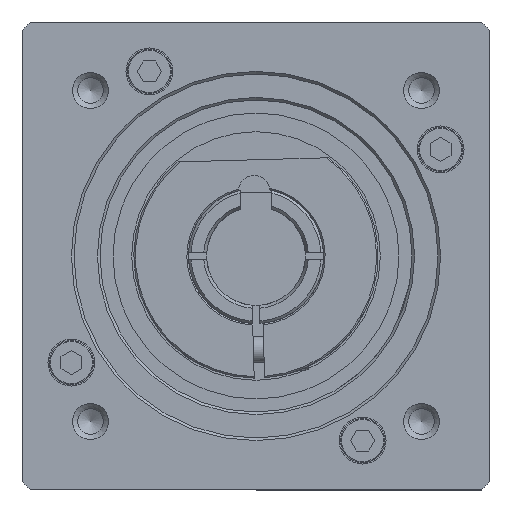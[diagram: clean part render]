
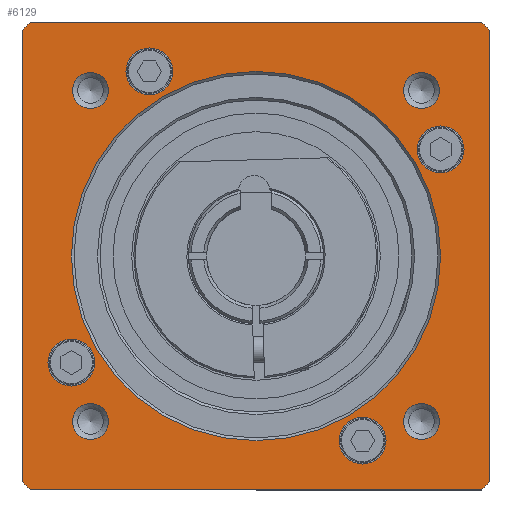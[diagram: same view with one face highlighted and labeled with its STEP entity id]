
A CAD part, front view. The second image highlights one B-rep face of the part: STEP entity #6129.
In plain terms, the highlighted planar face has unit normal (0, -1, 0).
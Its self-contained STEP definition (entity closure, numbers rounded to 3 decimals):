
#5951=CARTESIAN_POINT('',(-31.82,-25.,35.278));
#5952=VERTEX_POINT('',#5951);
#5953=CARTESIAN_POINT('',(-31.82,-25.,31.82));
#5954=DIRECTION('',(0.0,-1.0,0.0));
#5955=DIRECTION('',(0.0,0.0,-1.0));
#5956=AXIS2_PLACEMENT_3D('',#5953,#5954,#5955);
#5957=CIRCLE('',#5956,3.459);
#5958=EDGE_CURVE('',#5952,#5952,#5957,.T.);
#5963=CARTESIAN_POINT('',(48.75,-25.,0.));
#5964=DIRECTION('',(0.0,-1.0,0.0));
#5965=DIRECTION('',(0.0,0.0,-1.0));
#5966=AXIS2_PLACEMENT_3D('',#5963,#5964,#5965);
#5967=PLANE('',#5966);
#5968=CARTESIAN_POINT('',(-43.373,-25.,-45.));
#5969=VERTEX_POINT('',#5968);
#5970=CARTESIAN_POINT('',(43.373,-25.,-45.));
#5971=VERTEX_POINT('',#5970);
#5972=CARTESIAN_POINT('',(-43.373,-25.,-45.));
#5973=DIRECTION('',(1.0,0.0,0.0));
#5974=VECTOR('',#5973,86.747);
#5975=LINE('',#5972,#5974);
#5976=EDGE_CURVE('',#5969,#5971,#5975,.T.);
#5977=ORIENTED_EDGE('',*,*,#5976,.T.);
#5978=CARTESIAN_POINT('',(45.,-25.,-43.373));
#5979=VERTEX_POINT('',#5978);
#5980=CARTESIAN_POINT('',(0.,-25.,0.));
#5981=DIRECTION('',(0.0,-1.0,0.0));
#5982=DIRECTION('',(1.0,0.0,0.0));
#5983=AXIS2_PLACEMENT_3D('',#5980,#5981,#5982);
#5984=CIRCLE('',#5983,62.5);
#5985=EDGE_CURVE('',#5971,#5979,#5984,.T.);
#5986=ORIENTED_EDGE('',*,*,#5985,.T.);
#5987=CARTESIAN_POINT('',(45.,-25.,43.373));
#5988=VERTEX_POINT('',#5987);
#5989=CARTESIAN_POINT('',(45.,-25.,-43.373));
#5990=DIRECTION('',(0.0,0.0,1.0));
#5991=VECTOR('',#5990,86.747);
#5992=LINE('',#5989,#5991);
#5993=EDGE_CURVE('',#5979,#5988,#5992,.T.);
#5994=ORIENTED_EDGE('',*,*,#5993,.T.);
#5995=CARTESIAN_POINT('',(43.373,-25.,45.));
#5996=VERTEX_POINT('',#5995);
#5997=CARTESIAN_POINT('',(0.,-25.,0.));
#5998=DIRECTION('',(0.0,-1.0,0.0));
#5999=DIRECTION('',(1.0,0.0,0.0));
#6000=AXIS2_PLACEMENT_3D('',#5997,#5998,#5999);
#6001=CIRCLE('',#6000,62.5);
#6002=EDGE_CURVE('',#5988,#5996,#6001,.T.);
#6003=ORIENTED_EDGE('',*,*,#6002,.T.);
#6004=CARTESIAN_POINT('',(-43.373,-25.,45.0));
#6005=VERTEX_POINT('',#6004);
#6006=CARTESIAN_POINT('',(43.373,-25.,45.));
#6007=DIRECTION('',(-1.0,0.0,0.0));
#6008=VECTOR('',#6007,86.747);
#6009=LINE('',#6006,#6008);
#6010=EDGE_CURVE('',#5996,#6005,#6009,.T.);
#6011=ORIENTED_EDGE('',*,*,#6010,.T.);
#6012=CARTESIAN_POINT('',(-45.,-25.,43.373));
#6013=VERTEX_POINT('',#6012);
#6014=CARTESIAN_POINT('',(0.,-25.,0.));
#6015=DIRECTION('',(0.0,-1.0,0.0));
#6016=DIRECTION('',(1.0,0.0,0.0));
#6017=AXIS2_PLACEMENT_3D('',#6014,#6015,#6016);
#6018=CIRCLE('',#6017,62.5);
#6019=EDGE_CURVE('',#6005,#6013,#6018,.T.);
#6020=ORIENTED_EDGE('',*,*,#6019,.T.);
#6021=CARTESIAN_POINT('',(-45.,-25.,-43.373));
#6022=VERTEX_POINT('',#6021);
#6023=CARTESIAN_POINT('',(-45.,-25.,43.373));
#6024=DIRECTION('',(0.0,0.0,-1.0));
#6025=VECTOR('',#6024,86.747);
#6026=LINE('',#6023,#6025);
#6027=EDGE_CURVE('',#6013,#6022,#6026,.T.);
#6028=ORIENTED_EDGE('',*,*,#6027,.T.);
#6029=CARTESIAN_POINT('',(0.,-25.,0.));
#6030=DIRECTION('',(0.0,-1.0,0.0));
#6031=DIRECTION('',(1.0,0.0,0.0));
#6032=AXIS2_PLACEMENT_3D('',#6029,#6030,#6031);
#6033=CIRCLE('',#6032,62.5);
#6034=EDGE_CURVE('',#6022,#5969,#6033,.T.);
#6035=ORIENTED_EDGE('',*,*,#6034,.T.);
#6036=EDGE_LOOP('',(#5977,#5986,#5994,#6003,#6011,#6020,#6028,#6035));
#6037=FACE_OUTER_BOUND('',#6036,.T.);
#6038=CARTESIAN_POINT('',(-35.278,-25.,-31.82));
#6039=VERTEX_POINT('',#6038);
#6040=CARTESIAN_POINT('',(-31.82,-25.,-31.82));
#6041=DIRECTION('',(0.0,-1.0,0.0));
#6042=DIRECTION('',(1.0,0.0,0.0));
#6043=AXIS2_PLACEMENT_3D('',#6040,#6041,#6042);
#6044=CIRCLE('',#6043,3.459);
#6045=EDGE_CURVE('',#6039,#6039,#6044,.T.);
#6046=ORIENTED_EDGE('',*,*,#6045,.F.);
#6047=EDGE_LOOP('',(#6046));
#6048=FACE_BOUND('',#6047,.T.);
#6049=CARTESIAN_POINT('',(35.278,-25.,31.82));
#6050=VERTEX_POINT('',#6049);
#6051=CARTESIAN_POINT('',(31.82,-25.,31.82));
#6052=DIRECTION('',(0.0,-1.0,0.0));
#6053=DIRECTION('',(-1.0,0.0,0.0));
#6054=AXIS2_PLACEMENT_3D('',#6051,#6052,#6053);
#6055=CIRCLE('',#6054,3.459);
#6056=EDGE_CURVE('',#6050,#6050,#6055,.T.);
#6057=ORIENTED_EDGE('',*,*,#6056,.F.);
#6058=EDGE_LOOP('',(#6057));
#6059=FACE_BOUND('',#6058,.T.);
#6060=CARTESIAN_POINT('',(40.007,-25.,20.5));
#6061=VERTEX_POINT('',#6060);
#6062=CARTESIAN_POINT('',(35.507,-25.,20.5));
#6063=DIRECTION('',(0.0,1.0,0.0));
#6064=DIRECTION('',(1.0,0.0,0.0));
#6065=AXIS2_PLACEMENT_3D('',#6062,#6063,#6064);
#6066=CIRCLE('',#6065,4.5);
#6067=EDGE_CURVE('',#6061,#6061,#6066,.T.);
#6068=ORIENTED_EDGE('',*,*,#6067,.T.);
#6069=EDGE_LOOP('',(#6068));
#6070=FACE_BOUND('',#6069,.T.);
#6071=CARTESIAN_POINT('',(35.5,-25.,0.));
#6072=VERTEX_POINT('',#6071);
#6073=CARTESIAN_POINT('',(0.,-25.,0.));
#6074=DIRECTION('',(0.0,-1.0,0.0));
#6075=DIRECTION('',(-1.0,0.0,0.0));
#6076=AXIS2_PLACEMENT_3D('',#6073,#6074,#6075);
#6077=CIRCLE('',#6076,35.5);
#6078=EDGE_CURVE('',#6072,#6072,#6077,.T.);
#6079=ORIENTED_EDGE('',*,*,#6078,.F.);
#6080=EDGE_LOOP('',(#6079));
#6081=FACE_BOUND('',#6080,.T.);
#6082=CARTESIAN_POINT('',(20.5,-25.,-40.007));
#6083=VERTEX_POINT('',#6082);
#6084=CARTESIAN_POINT('',(20.5,-25.,-35.507));
#6085=DIRECTION('',(0.0,1.0,0.0));
#6086=DIRECTION('',(0.0,0.0,-1.0));
#6087=AXIS2_PLACEMENT_3D('',#6084,#6085,#6086);
#6088=CIRCLE('',#6087,4.5);
#6089=EDGE_CURVE('',#6083,#6083,#6088,.T.);
#6090=ORIENTED_EDGE('',*,*,#6089,.T.);
#6091=EDGE_LOOP('',(#6090));
#6092=FACE_BOUND('',#6091,.T.);
#6093=CARTESIAN_POINT('',(-40.007,-25.,-20.5));
#6094=VERTEX_POINT('',#6093);
#6095=CARTESIAN_POINT('',(-35.507,-25.,-20.5));
#6096=DIRECTION('',(0.0,1.0,0.0));
#6097=DIRECTION('',(-1.0,0.0,0.0));
#6098=AXIS2_PLACEMENT_3D('',#6095,#6096,#6097);
#6099=CIRCLE('',#6098,4.5);
#6100=EDGE_CURVE('',#6094,#6094,#6099,.T.);
#6101=ORIENTED_EDGE('',*,*,#6100,.T.);
#6102=EDGE_LOOP('',(#6101));
#6103=FACE_BOUND('',#6102,.T.);
#6104=CARTESIAN_POINT('',(-20.5,-25.,40.007));
#6105=VERTEX_POINT('',#6104);
#6106=CARTESIAN_POINT('',(-20.5,-25.,35.507));
#6107=DIRECTION('',(0.0,1.0,0.0));
#6108=DIRECTION('',(0.0,0.0,1.0));
#6109=AXIS2_PLACEMENT_3D('',#6106,#6107,#6108);
#6110=CIRCLE('',#6109,4.5);
#6111=EDGE_CURVE('',#6105,#6105,#6110,.T.);
#6112=ORIENTED_EDGE('',*,*,#6111,.T.);
#6113=EDGE_LOOP('',(#6112));
#6114=FACE_BOUND('',#6113,.T.);
#6115=CARTESIAN_POINT('',(31.82,-25.,-35.278));
#6116=VERTEX_POINT('',#6115);
#6117=CARTESIAN_POINT('',(31.82,-25.,-31.82));
#6118=DIRECTION('',(0.0,-1.0,0.0));
#6119=DIRECTION('',(0.0,0.0,1.0));
#6120=AXIS2_PLACEMENT_3D('',#6117,#6118,#6119);
#6121=CIRCLE('',#6120,3.459);
#6122=EDGE_CURVE('',#6116,#6116,#6121,.T.);
#6123=ORIENTED_EDGE('',*,*,#6122,.F.);
#6124=EDGE_LOOP('',(#6123));
#6125=FACE_BOUND('',#6124,.T.);
#6126=ORIENTED_EDGE('',*,*,#5958,.F.);
#6127=EDGE_LOOP('',(#6126));
#6128=FACE_BOUND('',#6127,.T.);
#6129=ADVANCED_FACE('',(#6037,#6048,#6059,#6070,#6081,#6092,#6103,#6114,#6125,#6128),#5967,.T.);
